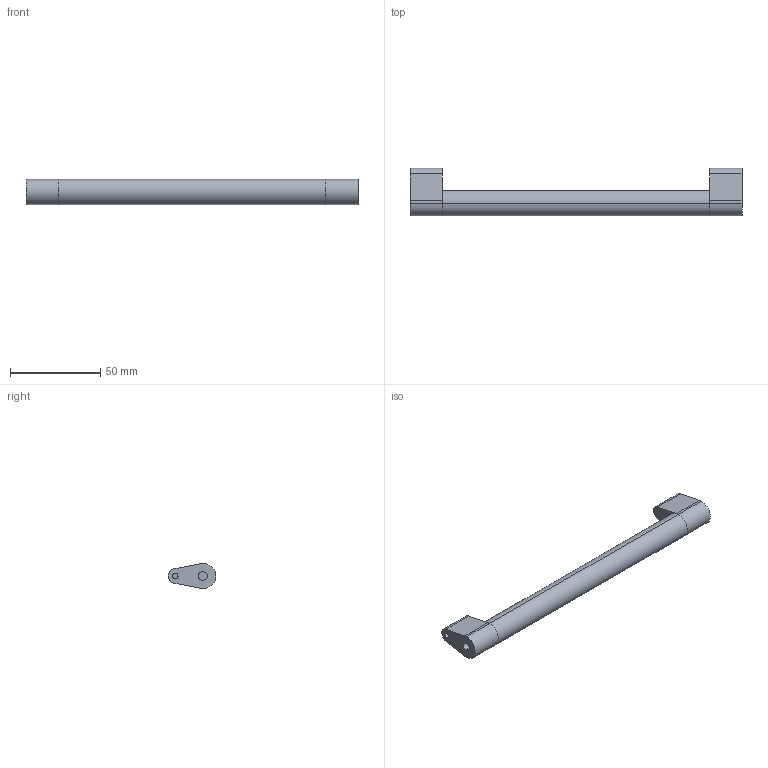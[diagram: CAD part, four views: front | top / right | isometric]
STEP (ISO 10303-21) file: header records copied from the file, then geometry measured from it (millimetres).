
FILE_DESCRIPTION (( 'STEP AP214' ), '1' );
FILE_NAME ('_Synchronisationseinheit Nova Pro KAB275_S19.step', '2010-07-08T13:58:39', ( 'grass' ), ( '' ), 'SwSTEP 2.0', 'SolidWorks 2010', '' );
FILE_SCHEMA (( 'AUTOMOTIVE_DESIGN' ));
Length unit declared in the file: millimetre
Products named in the file (1): _Synchronisationseinheit Nova Pro KAB275_S19
Bounding box: 184 x 26.5 x 14 mm (x, y, z)
Volume: 32011.4 mm3; surface area: 10939.7 mm2
Topology: 3 solids, 3 shells, 36 faces, 78 edges, 52 vertices
Faces by surface type: cylinder 18, plane 18
Entity records: 1050 total; most frequent: DIRECTION 188, CARTESIAN_POINT 167, ORIENTED_EDGE 156, EDGE_CURVE 78, AXIS2_PLACEMENT_3D 73, VERTEX_POINT 52, VECTOR 42, LINE 42
